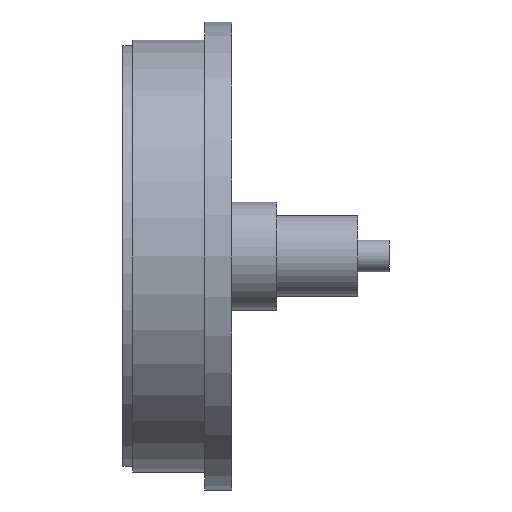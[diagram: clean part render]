
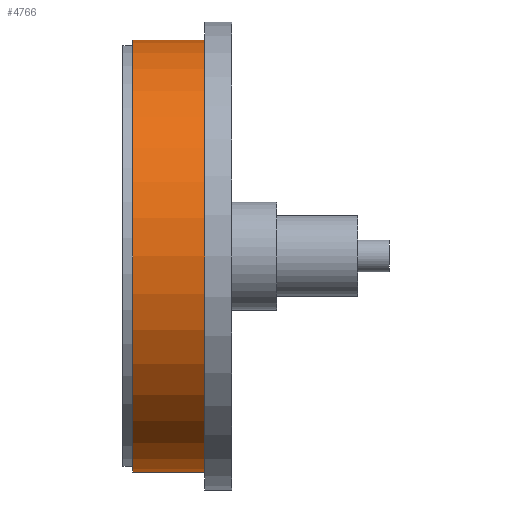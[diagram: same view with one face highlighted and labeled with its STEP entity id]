
A CAD part, front view. The second image highlights one B-rep face of the part: STEP entity #4766.
In plain terms, the highlighted cylindrical face has radius 24 mm (diameter 48 mm), a full revolution.
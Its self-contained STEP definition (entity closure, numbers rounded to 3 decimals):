
#3917 = PLANE('',#3918);
#3918 = AXIS2_PLACEMENT_3D('',#3919,#3920,#3921);
#3919 = CARTESIAN_POINT('',(21.,0.,0.));
#3920 = DIRECTION('',(1.,0.,0.));
#3921 = DIRECTION('',(-0.,1.,0.));
#4635 = EDGE_CURVE('',#4636,#4636,#4638,.T.);
#4636 = VERTEX_POINT('',#4637);
#4637 = CARTESIAN_POINT('',(21.,24.,0.));
#4638 = SURFACE_CURVE('',#4639,(#4644,#4651),.PCURVE_S1.);
#4639 = CIRCLE('',#4640,24.);
#4640 = AXIS2_PLACEMENT_3D('',#4641,#4642,#4643);
#4641 = CARTESIAN_POINT('',(21.,0.,0.));
#4642 = DIRECTION('',(1.,0.,0.));
#4643 = DIRECTION('',(-0.,1.,0.));
#4644 = PCURVE('',#3917,#4645);
#4645 = DEFINITIONAL_REPRESENTATION('',(#4646),#4650);
#4646 = CIRCLE('',#4647,24.);
#4647 = AXIS2_PLACEMENT_2D('',#4648,#4649);
#4648 = CARTESIAN_POINT('',(0.,0.));
#4649 = DIRECTION('',(1.,-0.));
#4650 = ( GEOMETRIC_REPRESENTATION_CONTEXT(2) 
PARAMETRIC_REPRESENTATION_CONTEXT() REPRESENTATION_CONTEXT('2D SPACE',''
  ) );
#4651 = PCURVE('',#4652,#4657);
#4652 = CYLINDRICAL_SURFACE('',#4653,24.);
#4653 = AXIS2_PLACEMENT_3D('',#4654,#4655,#4656);
#4654 = CARTESIAN_POINT('',(21.,0.,0.));
#4655 = DIRECTION('',(1.,0.,0.));
#4656 = DIRECTION('',(-0.,1.,0.));
#4657 = DEFINITIONAL_REPRESENTATION('',(#4658),#4662);
#4658 = LINE('',#4659,#4660);
#4659 = CARTESIAN_POINT('',(0.,0.));
#4660 = VECTOR('',#4661,1.);
#4661 = DIRECTION('',(1.,0.));
#4662 = ( GEOMETRIC_REPRESENTATION_CONTEXT(2) 
PARAMETRIC_REPRESENTATION_CONTEXT() REPRESENTATION_CONTEXT('2D SPACE',''
  ) );
#4766 = ADVANCED_FACE('',(#4767),#4652,.T.);
#4767 = FACE_BOUND('',#4768,.T.);
#4768 = EDGE_LOOP('',(#4769,#4770,#4793,#4820));
#4769 = ORIENTED_EDGE('',*,*,#4635,.T.);
#4770 = ORIENTED_EDGE('',*,*,#4771,.T.);
#4771 = EDGE_CURVE('',#4636,#4772,#4774,.T.);
#4772 = VERTEX_POINT('',#4773);
#4773 = CARTESIAN_POINT('',(29.,24.,0.));
#4774 = SEAM_CURVE('',#4775,(#4779,#4786),.PCURVE_S1.);
#4775 = LINE('',#4776,#4777);
#4776 = CARTESIAN_POINT('',(21.,24.,0.));
#4777 = VECTOR('',#4778,1.);
#4778 = DIRECTION('',(1.,0.,0.));
#4779 = PCURVE('',#4652,#4780);
#4780 = DEFINITIONAL_REPRESENTATION('',(#4781),#4785);
#4781 = LINE('',#4782,#4783);
#4782 = CARTESIAN_POINT('',(0.,0.));
#4783 = VECTOR('',#4784,1.);
#4784 = DIRECTION('',(0.,1.));
#4785 = ( GEOMETRIC_REPRESENTATION_CONTEXT(2) 
PARAMETRIC_REPRESENTATION_CONTEXT() REPRESENTATION_CONTEXT('2D SPACE',''
  ) );
#4786 = PCURVE('',#4652,#4787);
#4787 = DEFINITIONAL_REPRESENTATION('',(#4788),#4792);
#4788 = LINE('',#4789,#4790);
#4789 = CARTESIAN_POINT('',(6.283,0.));
#4790 = VECTOR('',#4791,1.);
#4791 = DIRECTION('',(0.,1.));
#4792 = ( GEOMETRIC_REPRESENTATION_CONTEXT(2) 
PARAMETRIC_REPRESENTATION_CONTEXT() REPRESENTATION_CONTEXT('2D SPACE',''
  ) );
#4793 = ORIENTED_EDGE('',*,*,#4794,.F.);
#4794 = EDGE_CURVE('',#4772,#4772,#4795,.T.);
#4795 = SURFACE_CURVE('',#4796,(#4801,#4808),.PCURVE_S1.);
#4796 = CIRCLE('',#4797,24.);
#4797 = AXIS2_PLACEMENT_3D('',#4798,#4799,#4800);
#4798 = CARTESIAN_POINT('',(29.,0.,0.));
#4799 = DIRECTION('',(1.,0.,0.));
#4800 = DIRECTION('',(-0.,1.,0.));
#4801 = PCURVE('',#4652,#4802);
#4802 = DEFINITIONAL_REPRESENTATION('',(#4803),#4807);
#4803 = LINE('',#4804,#4805);
#4804 = CARTESIAN_POINT('',(0.,8.));
#4805 = VECTOR('',#4806,1.);
#4806 = DIRECTION('',(1.,0.));
#4807 = ( GEOMETRIC_REPRESENTATION_CONTEXT(2) 
PARAMETRIC_REPRESENTATION_CONTEXT() REPRESENTATION_CONTEXT('2D SPACE',''
  ) );
#4808 = PCURVE('',#4809,#4814);
#4809 = PLANE('',#4810);
#4810 = AXIS2_PLACEMENT_3D('',#4811,#4812,#4813);
#4811 = CARTESIAN_POINT('',(29.,0.,0.));
#4812 = DIRECTION('',(1.,0.,0.));
#4813 = DIRECTION('',(-0.,1.,0.));
#4814 = DEFINITIONAL_REPRESENTATION('',(#4815),#4819);
#4815 = CIRCLE('',#4816,24.);
#4816 = AXIS2_PLACEMENT_2D('',#4817,#4818);
#4817 = CARTESIAN_POINT('',(0.,0.));
#4818 = DIRECTION('',(1.,-0.));
#4819 = ( GEOMETRIC_REPRESENTATION_CONTEXT(2) 
PARAMETRIC_REPRESENTATION_CONTEXT() REPRESENTATION_CONTEXT('2D SPACE',''
  ) );
#4820 = ORIENTED_EDGE('',*,*,#4771,.F.);
